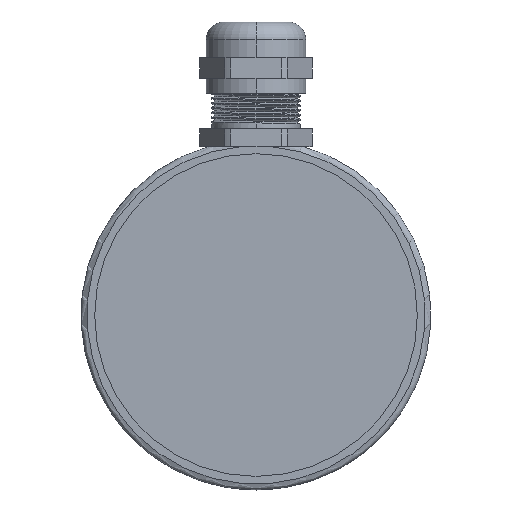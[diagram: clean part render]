
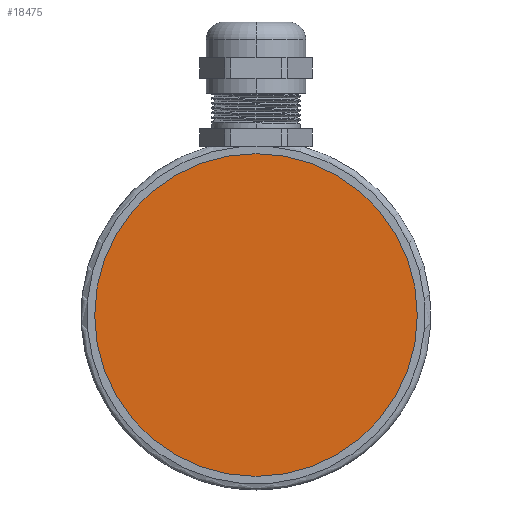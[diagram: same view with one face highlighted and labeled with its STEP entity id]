
A CAD part, front view. The second image highlights one B-rep face of the part: STEP entity #18475.
In plain terms, the highlighted planar face has unit normal (0, -1, 0).
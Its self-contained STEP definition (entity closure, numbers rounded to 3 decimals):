
#28 = DIRECTION ( 'NONE',  ( 0., 0., 1. ) ) ;
#1847 = CARTESIAN_POINT ( 'NONE',  ( 0., -29.5, 27.2 ) ) ;
#2059 = CARTESIAN_POINT ( 'NONE',  ( 0., -29.5, 0. ) ) ;
#4878 = CARTESIAN_POINT ( 'NONE',  ( 0., -29.5, 0. ) ) ;
#6141 = DIRECTION ( 'NONE',  ( 0., 0., 1. ) ) ;
#6452 = CIRCLE ( 'NONE', #18215, 27.2 ) ;
#6502 = AXIS2_PLACEMENT_3D ( 'NONE', #4878, #10737, #23567 ) ;
#9012 = PLANE ( 'NONE',  #12734 ) ;
#10737 = DIRECTION ( 'NONE',  ( 0., 1., 0. ) ) ;
#11446 = DIRECTION ( 'NONE',  ( 0., 1., 0. ) ) ;
#12734 = AXIS2_PLACEMENT_3D ( 'NONE', #2059, #11446, #28 ) ;
#14946 = CIRCLE ( 'NONE', #6502, 27.2 ) ;
#15373 = CARTESIAN_POINT ( 'NONE',  ( 0., -29.5, -27.2 ) ) ;
#17050 = FACE_OUTER_BOUND ( 'NONE', #20270, .T. ) ;
#17158 = DIRECTION ( 'NONE',  ( 0., 1., 0. ) ) ;
#18215 = AXIS2_PLACEMENT_3D ( 'NONE', #22958, #17158, #6141 ) ;
#18475 = ADVANCED_FACE ( 'NONE', ( #17050 ), #9012, .F. ) ;
#19087 = ORIENTED_EDGE ( 'NONE', *, *, #20375, .F. ) ;
#20025 = VERTEX_POINT ( 'NONE', #15373 ) ;
#20270 = EDGE_LOOP ( 'NONE', ( #20754, #19087 ) ) ;
#20375 = EDGE_CURVE ( 'NONE', #20025, #23963, #14946, .T. ) ;
#20754 = ORIENTED_EDGE ( 'NONE', *, *, #20987, .F. ) ;
#20987 = EDGE_CURVE ( 'NONE', #23963, #20025, #6452, .T. ) ;
#22958 = CARTESIAN_POINT ( 'NONE',  ( 0., -29.5, 0. ) ) ;
#23567 = DIRECTION ( 'NONE',  ( 0., 0., 1. ) ) ;
#23963 = VERTEX_POINT ( 'NONE', #1847 ) ;
